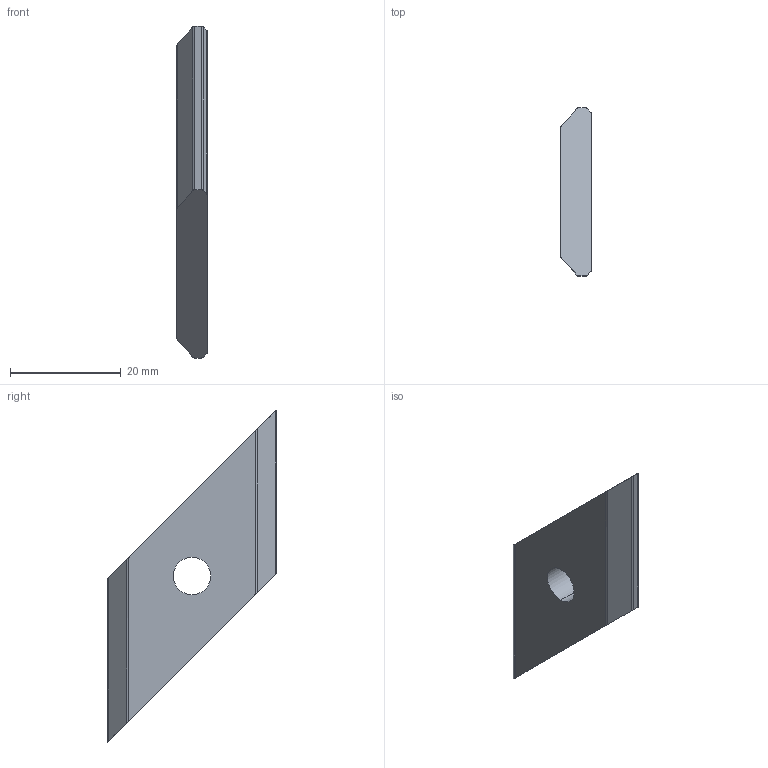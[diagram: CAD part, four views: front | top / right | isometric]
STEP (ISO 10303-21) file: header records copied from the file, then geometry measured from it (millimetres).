
FILE_DESCRIPTION (( 'STEP AP214' ), '1' );
FILE_NAME ('ECQA 45 M8.step', '2017-04-05T07:36:12', ( '' ), ( '' ), 'SwSTEP 2.0', 'SolidWorks 2015', '' );
FILE_SCHEMA (( 'AUTOMOTIVE_DESIGN' ));
Length unit declared in the file: millimetre
Products named in the file (1): ECQA 45 M8
Bounding box: 5.6 x 30.4 x 60 mm (x, y, z)
Volume: 4490.5 mm3; surface area: 2477.2 mm2
Topology: 1 solids, 1 shells, 20 faces, 54 edges, 36 vertices
Faces by surface type: cylinder 10, plane 10
Entity records: 682 total; most frequent: CARTESIAN_POINT 159, ORIENTED_EDGE 108, DIRECTION 84, EDGE_CURVE 54, VERTEX_POINT 36, LINE 34, VECTOR 34, AXIS2_PLACEMENT_3D 25
